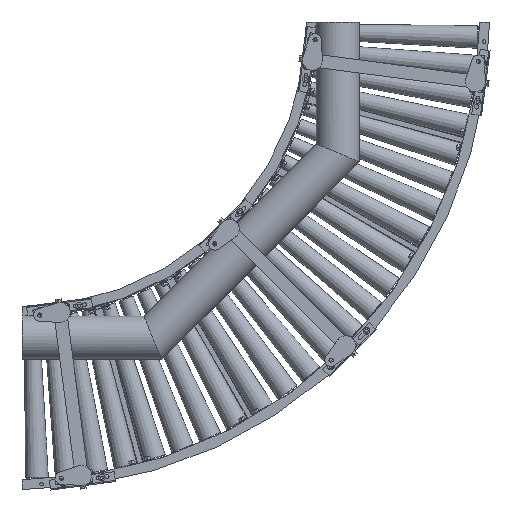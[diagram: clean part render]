
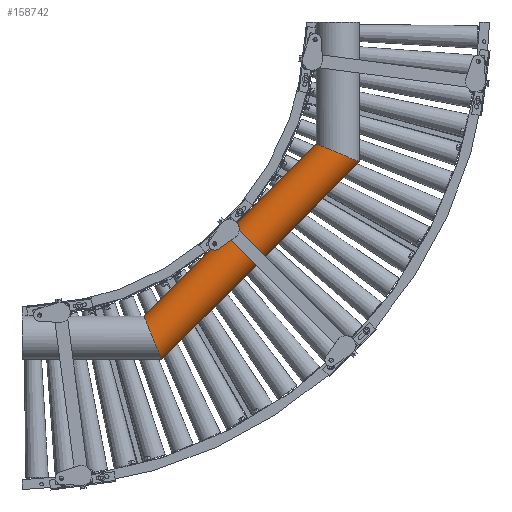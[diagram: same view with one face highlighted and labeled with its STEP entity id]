
A CAD part, front view. The second image highlights one B-rep face of the part: STEP entity #158742.
In plain terms, the highlighted cylindrical face has radius 67.024 mm (diameter 134.048 mm), a partial arc.
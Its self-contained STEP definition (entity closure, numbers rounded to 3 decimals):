
#1317 = CARTESIAN_POINT ( 'NONE',  ( 427.727, -166.5, -1032.6 ) ) ;
#3064 = LINE ( 'NONE', #87709, #11870 ) ;
#11870 = VECTOR ( 'NONE', #160889, 1000. ) ;
#12568 = VERTEX_POINT ( 'NONE', #168524 ) ;
#25678 = CARTESIAN_POINT ( 'NONE',  ( 985.924, -156.676, -380.64 ) ) ;
#40265 = CARTESIAN_POINT ( 'NONE',  ( 1032.6, -166.5, -427.727 ) ) ;
#43301 = EDGE_CURVE ( 'NONE', #91104, #55351, #103697, .T. ) ;
#51706 = EDGE_CURVE ( 'NONE', #69941, #12568, #68152, .T. ) ;
#52143 = CARTESIAN_POINT ( 'NONE',  ( 915.03, -267.933, -379.027 ) ) ;
#52768 = CARTESIAN_POINT ( 'NONE',  ( 900., -166.5, -372.802 ) ) ;
#55351 = VERTEX_POINT ( 'NONE', #77361 ) ;
#61112 = CARTESIAN_POINT ( 'NONE',  ( 372.802, -166.5, -900. ) ) ;
#65359 = DIRECTION ( 'NONE',  ( -0.707, 0., -0.707 ) ) ;
#68152 =( BOUNDED_CURVE ( )  B_SPLINE_CURVE ( 3, ( #40265, #181862, #52143, #52768 ),
 .UNSPECIFIED., .F., .T. ) 
 B_SPLINE_CURVE_WITH_KNOTS ( ( 4, 4 ),
 ( 0.147, 2.994 ),
 .UNSPECIFIED. ) 
 CURVE ( )  GEOMETRIC_REPRESENTATION_ITEM ( )  RATIONAL_B_SPLINE_CURVE ( ( 1., 0.431, 0.431, 1. ) ) 
 REPRESENTATION_ITEM ( '' )  );
#69941 = VERTEX_POINT ( 'NONE', #93270 ) ;
#74154 = CARTESIAN_POINT ( 'NONE',  ( 421.501, -267.933, -1017.57 ) ) ;
#74785 = CARTESIAN_POINT ( 'NONE',  ( 427.727, -166.5, -1032.6 ) ) ;
#77244 = ORIENTED_EDGE ( 'NONE', *, *, #155966, .T. ) ;
#77361 = CARTESIAN_POINT ( 'NONE',  ( 372.802, -166.5, -900. ) ) ;
#83434 = DIRECTION ( 'NONE',  ( -0.707, 0., -0.707 ) ) ;
#87709 = CARTESIAN_POINT ( 'NONE',  ( 939.043, -166.5, -333.759 ) ) ;
#91104 = VERTEX_POINT ( 'NONE', #1317 ) ;
#93270 = CARTESIAN_POINT ( 'NONE',  ( 1032.6, -166.5, -427.727 ) ) ;
#103697 =( BOUNDED_CURVE ( )  B_SPLINE_CURVE ( 3, ( #74785, #74154, #172810, #61112 ),
 .UNSPECIFIED., .F., .T. ) 
 B_SPLINE_CURVE_WITH_KNOTS ( ( 4, 4 ),
 ( 0.147, 2.994 ),
 .UNSPECIFIED. ) 
 CURVE ( )  GEOMETRIC_REPRESENTATION_ITEM ( )  RATIONAL_B_SPLINE_CURVE ( ( 1., 0.431, 0.431, 1. ) ) 
 REPRESENTATION_ITEM ( '' )  );
#109391 = CARTESIAN_POINT ( 'NONE',  ( 1032.805, -166.5, -427.522 ) ) ;
#111538 = FACE_OUTER_BOUND ( 'NONE', #159496, .T. ) ;
#116211 = ORIENTED_EDGE ( 'NONE', *, *, #51706, .T. ) ;
#127064 = CYLINDRICAL_SURFACE ( 'NONE', #167612, 67.024 ) ;
#149654 = ORIENTED_EDGE ( 'NONE', *, *, #43301, .F. ) ;
#155966 = EDGE_CURVE ( 'NONE', #12568, #55351, #3064, .T. ) ;
#158742 = ADVANCED_FACE ( 'NONE', ( #111538 ), #127064, .T. ) ;
#159496 = EDGE_LOOP ( 'NONE', ( #179378, #116211, #77244, #149654 ) ) ;
#160383 = LINE ( 'NONE', #109391, #175831 ) ;
#160889 = DIRECTION ( 'NONE',  ( -0.707, 0., -0.707 ) ) ;
#167612 = AXIS2_PLACEMENT_3D ( 'NONE', #25678, #83434, #182120 ) ;
#168524 = CARTESIAN_POINT ( 'NONE',  ( 900., -166.5, -372.802 ) ) ;
#168784 = EDGE_CURVE ( 'NONE', #69941, #91104, #160383, .T. ) ;
#172810 = CARTESIAN_POINT ( 'NONE',  ( 379.027, -267.933, -915.03 ) ) ;
#175831 = VECTOR ( 'NONE', #65359, 1000. ) ;
#179378 = ORIENTED_EDGE ( 'NONE', *, *, #168784, .F. ) ;
#181862 = CARTESIAN_POINT ( 'NONE',  ( 1017.57, -267.933, -421.501 ) ) ;
#182120 = DIRECTION ( 'NONE',  ( -0.707, 0., 0.707 ) ) ;
